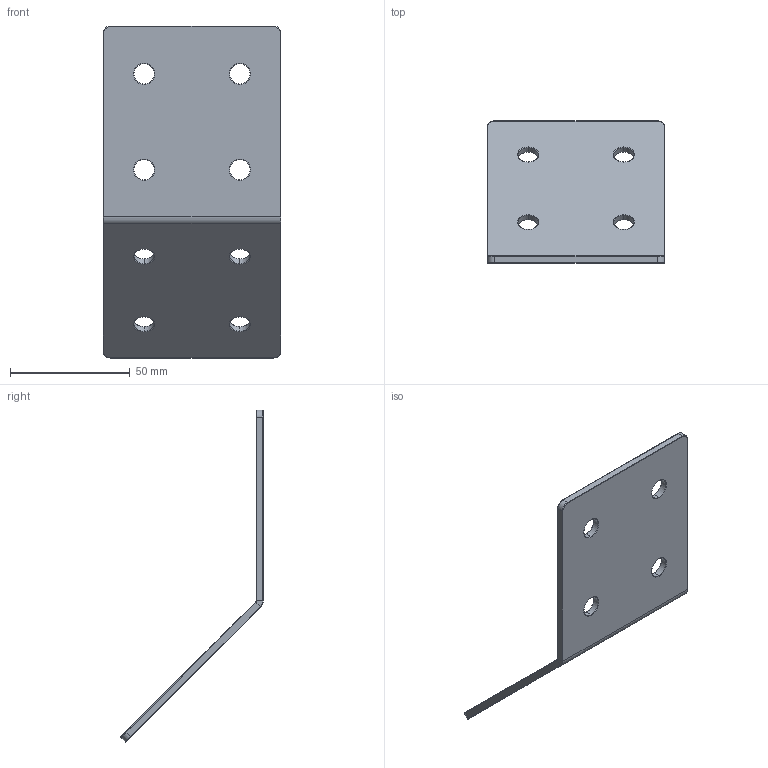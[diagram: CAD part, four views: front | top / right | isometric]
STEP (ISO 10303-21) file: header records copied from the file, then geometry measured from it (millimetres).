
FILE_DESCRIPTION (( 'STEP AP214' ), '1' );
FILE_NAME ('848080s.STEP', '2026-09-11T05:28:00', ( '' ), ( '' ), 'SwSTEP 2.0', 'SolidWorks 2022', '' );
FILE_SCHEMA (( 'AUTOMOTIVE_DESIGN' ));
Length unit declared in the file: millimetre
Products named in the file (1): 848080s
Bounding box: 74 x 59.48 x 138.61 mm (x, y, z)
Volume: 34377.2 mm3; surface area: 24845.9 mm2
Topology: 1 solids, 1 shells, 91 faces, 203 edges, 114 vertices
Faces by surface type: torus 44, cylinder 35, plane 12
Entity records: 2597 total; most frequent: DIRECTION 533, CARTESIAN_POINT 409, ORIENTED_EDGE 406, AXIS2_PLACEMENT_3D 238, EDGE_CURVE 203, CIRCLE 146, VERTEX_POINT 114, EDGE_LOOP 107
